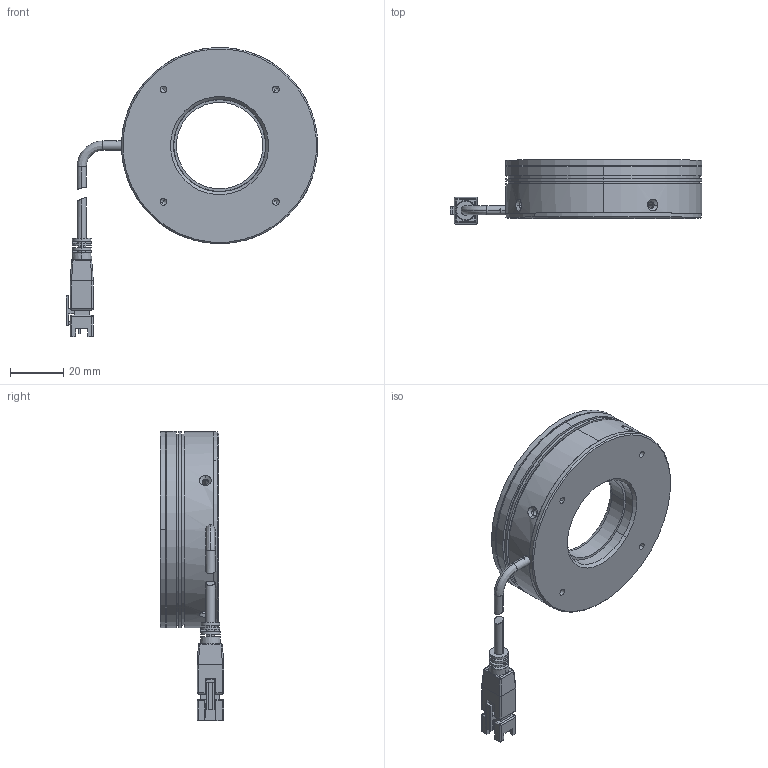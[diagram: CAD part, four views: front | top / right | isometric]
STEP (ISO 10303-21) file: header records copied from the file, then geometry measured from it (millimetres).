
FILE_DESCRIPTION (( 'STEP AP203' ), '1' );
FILE_NAME ('P-RL-74-60-00.STEP', '2026-03-13T08:02:45', ( '' ), ( '' ), 'SwSTEP 2.0', 'SolidWorks 2022', '' );
FILE_SCHEMA (( 'CONFIG_CONTROL_DESIGN' ));
Length unit declared in the file: millimetre
Products named in the file (6): 光源线; P-RL-74-60-00; 7460灯珠-00; P-RL-74-60-001; P-RL-74-60-003; P-RL-74-60-002
Assembly tree (5 placements, depth 2):
  P-RL-74-60-00
    P-RL-74-60-001
    P-RL-74-60-002
    P-RL-74-60-003
    7460灯珠-00
    光源线
Bounding box: 94.84 x 24.01 x 109 mm (x, y, z)
Volume: 41566 mm3; surface area: 38023 mm2
Topology: 7 solids, 7 shells, 387 faces, 952 edges, 564 vertices
Faces by surface type: plane 135, cylinder 133, cone 72, torus 27, bspline 20
Entity records: 13049 total; most frequent: CARTESIAN_POINT 3497, DIRECTION 1901, ORIENTED_EDGE 1832, EDGE_CURVE 916, AXIS2_PLACEMENT_3D 718, VERTEX_POINT 564, VECTOR 465, LINE 465
